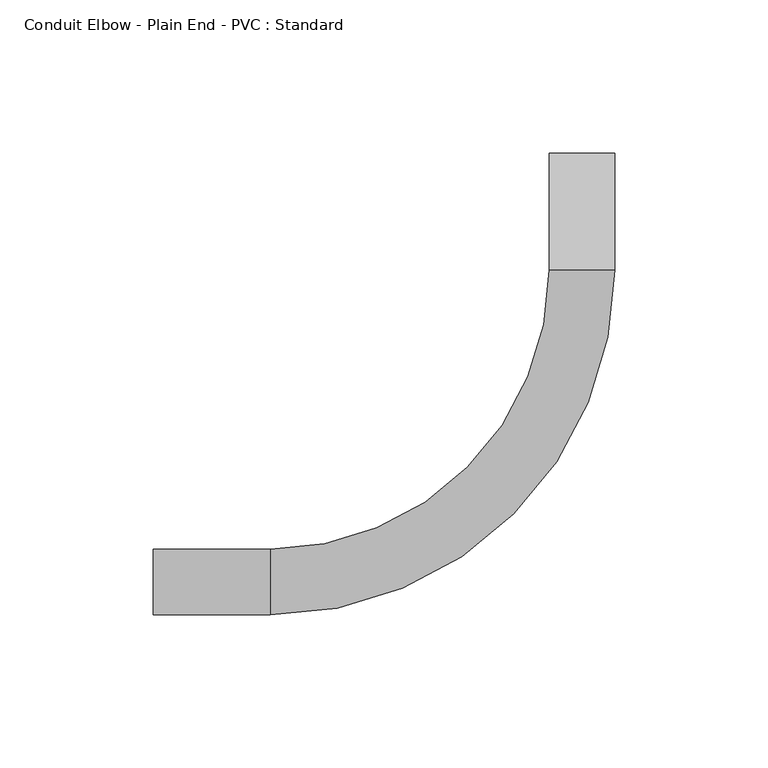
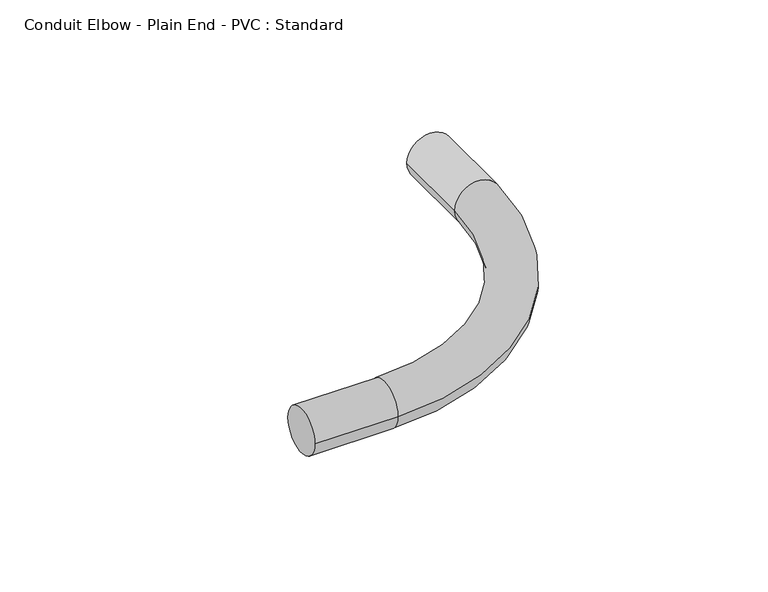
"""IFC4 building model written with IfcOpenShell, lengths in millimetres: cable carrier fitting geometry, Conduit Elbow - Plain End - PVC : Standard."""

from ifc_helpers import new_model, si_unit, point, frame, origin, place, context, project, spatial, circle_curve, ellipse_curve, trimmed, source, transform, mapped, element, save
from ifc_brep_helpers import plane_surface, cylinder_surface, revolved_surface, advanced_brep


def conduit_elbow_plain_end_pvc_standard_c46de57f(model_context):
    return source(origin(), model_context, "Body", "AdvancedBrep", [
        advanced_brep(
        [(-139.7, -10.668, 0.0), (-139.7, 10.668, 0.0), (-101.6, -10.668, 0.0), (-101.6, 10.668, 0.0), (-10.668, 101.6, 0.0), (10.668, 101.6, 0.0), (10.668, 139.7, 0.0), (-10.668, 139.7, 0.0)],
        [
            (0, 1, circle_curve(frame((-139.7, 0.0, 0.0), z_axis=(-1.0, 0.0, 0.0), x_axis=(0.0, 1.0, 0.0)), 10.668)),
            (1, 0, circle_curve(frame((-139.7, 0.0, 0.0), z_axis=(-1.0, 0.0, 0.0), x_axis=(0.0, 1.0, 0.0)), 10.668)),
            (0, 2),
            (2, 3, circle_curve(frame((-101.6, 0.0, 0.0), z_axis=(-1.0, 0.0, 0.0), x_axis=(0.0, 1.0, 0.0)), 10.668)),
            (3, 1),
            (3, 2, circle_curve(frame((-101.6, 0.0, 0.0), z_axis=(-1.0, 0.0, 0.0), x_axis=(0.0, 1.0, 0.0)), 10.668)),
            (4, 3, circle_curve(frame((-101.6, 101.6, 0.0), z_axis=(0.0, 0.0, -1.0), x_axis=(0.0, -1.0, 0.0)), 90.932)),
            (2, 5, circle_curve(frame((-101.6, 101.6, 0.0), z_axis=(0.0, 0.0, 1.0), x_axis=(0.0, -1.0, 0.0)), 112.268)),
            (5, 4, circle_curve(frame((0.0, 101.6, 0.0), z_axis=(0.0, -1.0, 0.0), x_axis=(-1.0, 0.0, 0.0)), 10.668)),
            (4, 5, circle_curve(frame((0.0, 101.6, 0.0), z_axis=(0.0, -1.0, 0.0), x_axis=(-1.0, 0.0, 0.0)), 10.668)),
            (6, 7, circle_curve(frame((0.0, 139.7, 0.0), z_axis=(0.0, 1.0, 0.0), x_axis=(-1.0, 0.0, 0.0)), 10.668)),
            (7, 6, circle_curve(frame((0.0, 139.7, 0.0), z_axis=(0.0, 1.0, 0.0), x_axis=(-1.0, 0.0, 0.0)), 10.668)),
            (5, 6),
            (7, 4),
        ],
        [
            plane_surface(frame((-139.7, 0.0, 0.0), z_axis=(-1.0, 0.0, 0.0), x_axis=(0.0, 0.0, 1.0))),
            cylinder_surface(frame((-139.7, 0.0, 0.0), z_axis=(-1.0, 0.0, 0.0), x_axis=(0.0, 1.0, 0.0)), 10.668),
            revolved_surface(trimmed(ellipse_curve(frame((-101.6, 0.0, 0.0), z_axis=(-1.0, 0.0, 0.0), x_axis=(0.0, 1.0, 0.0)), 10.668, 10.668), [point((-101.6, -10.668, 0.0))], [point((-101.6, 10.668, 0.0))], True, "CARTESIAN"), (-101.6, 101.6, 0.0), (0.0, 0.0, 1.0)),
            revolved_surface(trimmed(ellipse_curve(frame((-101.6, 0.0, 0.0), z_axis=(-1.0, 0.0, 0.0), x_axis=(0.0, 1.0, 0.0)), 10.668, 10.668), [point((-101.6, 10.668, 0.0))], [point((-101.6, -10.668, 0.0))], True, "CARTESIAN"), (-101.6, 101.6, 0.0), (0.0, 0.0, 1.0)),
            plane_surface(frame((0.0, 139.7, 0.0), z_axis=(0.0, 1.0, 0.0), x_axis=(0.0, 0.0, 1.0))),
            cylinder_surface(frame((0.0, 101.6, 0.0), z_axis=(0.0, -1.0, 0.0), x_axis=(-1.0, 0.0, 0.0)), 10.668),
        ],
        [
            (0, [[1, 2]]),
            (1, [[-1, 3, 4, 5]]),
            (1, [[-2, -5, 6, -3]]),
            (2, [[7, -4, 8, 9]]),
            (3, [[-8, -6, -7, 10]]),
            (4, [[11, 12]]),
            (5, [[-9, 13, -12, 14]]),
            (5, [[-10, -14, -11, -13]]),
        ],
    ),
    ])


if __name__ == "__main__":
    model = new_model("IFC4")
    model_context = context("Model", 3, world=origin())
    ifc_project = project(units=[si_unit("LENGTHUNIT", "METRE", prefix="MILLI")], contexts=[model_context])
    site = spatial("IfcSite", under=ifc_project)
    building = spatial("IfcBuilding", under=site)
    placement = place(None, origin())
    conduit_elbow_plain_end_pvc_standard_shape = conduit_elbow_plain_end_pvc_standard_c46de57f(model_context)
    element("IfcCableCarrierFitting", 1, ObjectType="Conduit Elbow - Plain End - PVC : Standard", at=placement, inside=building, context=model_context, shape_type="MappedRepresentation", body=[
        mapped(conduit_elbow_plain_end_pvc_standard_shape, transform((0.0, 0.0, 0.0), x_axis=(1.0, 0.0, 0.0), y_axis=(0.0, 1.0, 0.0), z_axis=(0.0, 0.0, 1.0))),
    ])
    save(model, "model.ifc")
